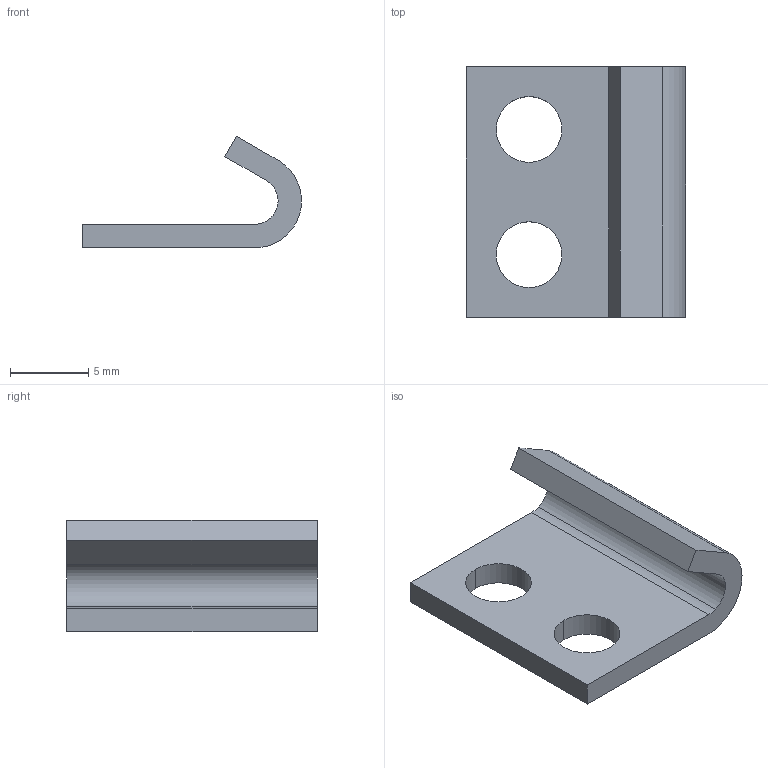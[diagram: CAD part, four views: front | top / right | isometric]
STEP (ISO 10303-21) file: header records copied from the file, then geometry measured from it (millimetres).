
FILE_DESCRIPTION((''),'2;1');
FILE_NAME('1031.__-5.stp','2011-07-04T08:31:20',(''),(''),'Mechanical Desktop 2006','Mechanical Desktop 2006',', , ');
FILE_SCHEMA(('CONFIG_CONTROL_DESIGN'));
Length unit declared in the file: millimetre
Products named in the file (2): 1031.__-5; ~TEIL1
Assembly tree (1 placements, depth 2):
  1031.__-5
    ~TEIL1
Bounding box: 14 x 16 x 7.13 mm (x, y, z)
Volume: 437.6 mm3; surface area: 730.9 mm2
Topology: 1 solids, 1 shells, 16 faces, 42 edges, 28 vertices
Faces by surface type: cylinder 8, plane 8
Entity records: 619 total; most frequent: DIRECTION 94, CARTESIAN_POINT 88, ORIENTED_EDGE 84, EDGE_CURVE 42, AXIS2_PLACEMENT_3D 34, VERTEX_POINT 28, VECTOR 26, LINE 26
